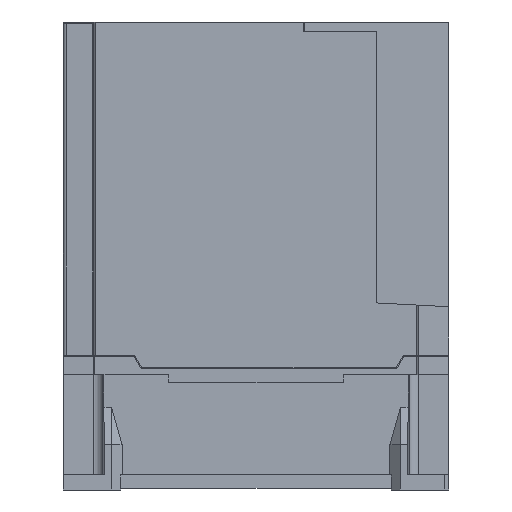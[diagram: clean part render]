
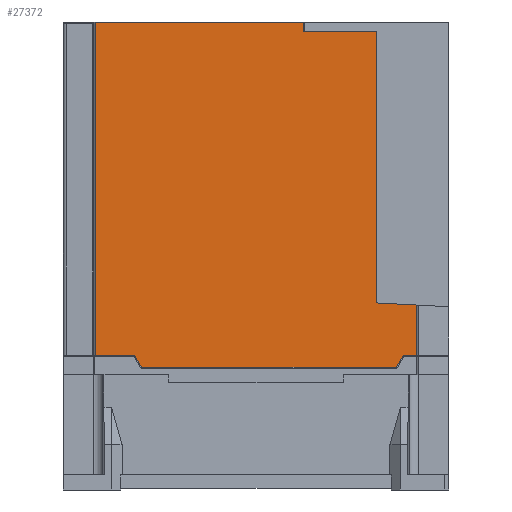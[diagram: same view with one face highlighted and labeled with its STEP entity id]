
A CAD part, left-side view. The second image highlights one B-rep face of the part: STEP entity #27372.
In plain terms, the highlighted planar face has unit normal (-1, 0, 0).
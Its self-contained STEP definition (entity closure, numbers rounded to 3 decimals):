
#860=DIRECTION('',(0.,0.,1.));
#861=VECTOR('',#860,90.342);
#862=CARTESIAN_POINT('',(-54.,24.,17.858));
#863=LINE('',#862,#861);
#7847=DIRECTION('',(0.,-1.,0.));
#7848=VECTOR('',#7847,4.54);
#7849=CARTESIAN_POINT('',(-54.,15.091,0.5));
#7850=LINE('',#7849,#7848);
#7851=DIRECTION('',(0.,-0.5,0.866));
#7852=VECTOR('',#7851,4.619);
#7853=CARTESIAN_POINT('',(-54.,17.4,-3.5));
#7854=LINE('',#7853,#7852);
#7855=DIRECTION('',(0.,-1.,0.));
#7856=VECTOR('',#7855,84.6);
#7857=CARTESIAN_POINT('',(-54.,102.,-3.5));
#7858=LINE('',#7857,#7856);
#7859=DIRECTION('',(0.,-0.5,-0.866));
#7860=VECTOR('',#7859,4.619);
#7861=CARTESIAN_POINT('',(-54.,104.309,0.5));
#7862=LINE('',#7861,#7860);
#7863=DIRECTION('',(0.,-1.,0.));
#7864=VECTOR('',#7863,13.14);
#7865=CARTESIAN_POINT('',(-54.,117.45,0.5));
#7866=LINE('',#7865,#7864);
#7867=DIRECTION('',(0.,0.,1.));
#7868=VECTOR('',#7867,110.7);
#7869=CARTESIAN_POINT('',(-54.,117.45,0.5));
#7870=LINE('',#7869,#7868);
#7871=DIRECTION('',(0.,-0.052,-0.999));
#7872=VECTOR('',#7871,3.004);
#7873=CARTESIAN_POINT('',(-54.,48.32,111.2));
#7874=LINE('',#7873,#7872);
#7875=DIRECTION('',(0.,1.,0.));
#7876=VECTOR('',#7875,24.162);
#7877=CARTESIAN_POINT('',(-54.,24.,108.2));
#7878=LINE('',#7877,#7876);
#7879=DIRECTION('',(0.,0.999,0.052));
#7880=VECTOR('',#7879,13.468);
#7881=CARTESIAN_POINT('',(-54.,10.55,17.153));
#7882=LINE('',#7881,#7880);
#7883=DIRECTION('',(0.,0.,1.));
#7884=VECTOR('',#7883,16.653);
#7885=CARTESIAN_POINT('',(-54.,10.55,0.5));
#7886=LINE('',#7885,#7884);
#7972=DIRECTION('',(0.,-1.,0.));
#7973=VECTOR('',#7972,69.13);
#7974=CARTESIAN_POINT('',(-54.,117.45,111.2));
#7975=LINE('',#7974,#7973);
#9868=CARTESIAN_POINT('',(-54.,102.,-3.5));
#9869=CARTESIAN_POINT('',(-54.,17.4,-3.5));
#9870=VERTEX_POINT('',#9868);
#9871=VERTEX_POINT('',#9869);
#9880=CARTESIAN_POINT('',(-54.,15.091,0.5));
#9881=VERTEX_POINT('',#9880);
#9882=CARTESIAN_POINT('',(-54.,104.309,0.5));
#9883=VERTEX_POINT('',#9882);
#9904=CARTESIAN_POINT('',(-54.,24.,17.858));
#9905=VERTEX_POINT('',#9904);
#9960=CARTESIAN_POINT('',(-54.,117.45,0.5));
#9961=VERTEX_POINT('',#9960);
#9962=CARTESIAN_POINT('',(-54.,10.55,0.5));
#9963=VERTEX_POINT('',#9962);
#10203=CARTESIAN_POINT('',(-54.,10.55,17.153));
#10204=VERTEX_POINT('',#10203);
#10321=CARTESIAN_POINT('',(-54.,117.45,111.2));
#10322=CARTESIAN_POINT('',(-54.,48.32,111.2));
#10323=VERTEX_POINT('',#10321);
#10324=VERTEX_POINT('',#10322);
#10445=CARTESIAN_POINT('',(-54.,24.,108.2));
#10447=VERTEX_POINT('',#10445);
#10449=CARTESIAN_POINT('',(-54.,48.162,108.2));
#10450=VERTEX_POINT('',#10449);
#27346=CARTESIAN_POINT('',(-54.,128.,0.));
#27347=DIRECTION('',(-1.,0.,0.));
#27348=DIRECTION('',(0.,-1.,0.));
#27349=AXIS2_PLACEMENT_3D('',#27346,#27347,#27348);
#27350=PLANE('',#27349);
#27351=ORIENTED_EDGE('',*,*,#17824,.F.);
#27353=ORIENTED_EDGE('',*,*,#27352,.F.);
#27355=ORIENTED_EDGE('',*,*,#27354,.F.);
#27357=ORIENTED_EDGE('',*,*,#27356,.F.);
#27358=ORIENTED_EDGE('',*,*,#17897,.F.);
#27360=ORIENTED_EDGE('',*,*,#27359,.T.);
#27362=ORIENTED_EDGE('',*,*,#27361,.T.);
#27364=ORIENTED_EDGE('',*,*,#27363,.T.);
#27365=ORIENTED_EDGE('',*,*,#27330,.F.);
#27366=ORIENTED_EDGE('',*,*,#13348,.F.);
#27367=ORIENTED_EDGE('',*,*,#18468,.F.);
#27369=ORIENTED_EDGE('',*,*,#27368,.F.);
#27370=EDGE_LOOP('',(#27351,#27353,#27355,#27357,#27358,#27360,#27362,#27364,
#27365,#27366,#27367,#27369));
#27371=FACE_OUTER_BOUND('',#27370,.F.);
#27372=ADVANCED_FACE('',(#27371),#27350,.T.);
#13348=EDGE_CURVE('',#9905,#10447,#863,.T.);
#17824=EDGE_CURVE('',#9881,#9963,#7850,.T.);
#17897=EDGE_CURVE('',#9961,#9883,#7866,.T.);
#18468=EDGE_CURVE('',#10204,#9905,#7882,.T.);
#27330=EDGE_CURVE('',#10447,#10450,#7878,.T.);
#27352=EDGE_CURVE('',#9871,#9881,#7854,.T.);
#27354=EDGE_CURVE('',#9870,#9871,#7858,.T.);
#27356=EDGE_CURVE('',#9883,#9870,#7862,.T.);
#27359=EDGE_CURVE('',#9961,#10323,#7870,.T.);
#27361=EDGE_CURVE('',#10323,#10324,#7975,.T.);
#27363=EDGE_CURVE('',#10324,#10450,#7874,.T.);
#27368=EDGE_CURVE('',#9963,#10204,#7886,.T.);
